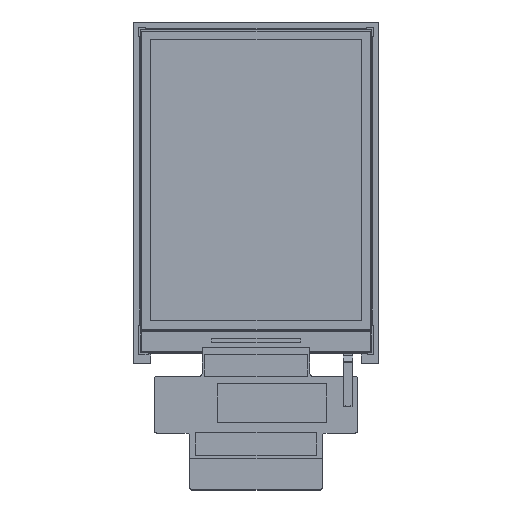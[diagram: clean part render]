
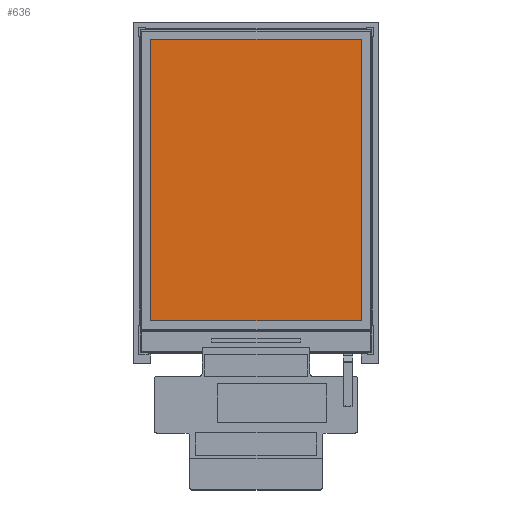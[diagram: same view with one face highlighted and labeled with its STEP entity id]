
A CAD part, top view. The second image highlights one B-rep face of the part: STEP entity #636.
In plain terms, the highlighted planar face has unit normal (0, 0, 1).
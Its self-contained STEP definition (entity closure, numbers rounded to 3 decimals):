
#207 = VECTOR ( 'NONE', #10439, 1000. ) ;
#421 = LINE ( 'NONE', #2954, #11040 ) ;
#636 = ADVANCED_FACE ( 'NONE', ( #7480 ), #10045, .T. ) ;
#649 = DIRECTION ( 'NONE',  ( 0., 0., 1. ) ) ;
#797 = EDGE_CURVE ( 'NONE', #1530, #8434, #3633, .T. ) ;
#815 = DIRECTION ( 'NONE',  ( 1., 0., 0. ) ) ;
#1384 = DIRECTION ( 'NONE',  ( 0., -1., 0. ) ) ;
#1530 = VERTEX_POINT ( 'NONE', #7946 ) ;
#2038 = ORIENTED_EDGE ( 'NONE', *, *, #4734, .T. ) ;
#2617 = CARTESIAN_POINT ( 'NONE',  ( 54.813, 98.733, -0.045 ) ) ;
#2678 = VERTEX_POINT ( 'NONE', #10154 ) ;
#2954 = CARTESIAN_POINT ( 'NONE',  ( 54.813, 147.693, -0.045 ) ) ;
#3119 = CARTESIAN_POINT ( 'NONE',  ( 91.533, 147.693, -0.045 ) ) ;
#3633 = LINE ( 'NONE', #8237, #207 ) ;
#4734 = EDGE_CURVE ( 'NONE', #2678, #1530, #5912, .T. ) ;
#5076 = CARTESIAN_POINT ( 'NONE',  ( 91.533, 147.693, -0.045 ) ) ;
#5395 = EDGE_LOOP ( 'NONE', ( #7223, #10412, #2038, #9356 ) ) ;
#5912 = LINE ( 'NONE', #2617, #8459 ) ;
#6247 = CARTESIAN_POINT ( 'NONE',  ( 54.813, 147.693, -0.045 ) ) ;
#7223 = ORIENTED_EDGE ( 'NONE', *, *, #7686, .T. ) ;
#7464 = VECTOR ( 'NONE', #7778, 1000. ) ;
#7480 = FACE_OUTER_BOUND ( 'NONE', #5395, .T. ) ;
#7686 = EDGE_CURVE ( 'NONE', #8434, #9955, #8243, .T. ) ;
#7778 = DIRECTION ( 'NONE',  ( -1., 0., 0. ) ) ;
#7946 = CARTESIAN_POINT ( 'NONE',  ( 91.533, 98.733, -0.045 ) ) ;
#8237 = CARTESIAN_POINT ( 'NONE',  ( 91.533, 98.733, -0.045 ) ) ;
#8243 = LINE ( 'NONE', #3119, #7464 ) ;
#8248 = AXIS2_PLACEMENT_3D ( 'NONE', #8324, #649, #1384 ) ;
#8324 = CARTESIAN_POINT ( 'NONE',  ( 14.861, 5.028, -0.045 ) ) ;
#8434 = VERTEX_POINT ( 'NONE', #5076 ) ;
#8459 = VECTOR ( 'NONE', #815, 1000. ) ;
#8641 = EDGE_CURVE ( 'NONE', #9955, #2678, #421, .T. ) ;
#9356 = ORIENTED_EDGE ( 'NONE', *, *, #797, .T. ) ;
#9955 = VERTEX_POINT ( 'NONE', #6247 ) ;
#10045 = PLANE ( 'NONE',  #8248 ) ;
#10154 = CARTESIAN_POINT ( 'NONE',  ( 54.813, 98.733, -0.045 ) ) ;
#10412 = ORIENTED_EDGE ( 'NONE', *, *, #8641, .T. ) ;
#10439 = DIRECTION ( 'NONE',  ( 0., 1., 0. ) ) ;
#10646 = DIRECTION ( 'NONE',  ( 0., -1., 0. ) ) ;
#11040 = VECTOR ( 'NONE', #10646, 1000. ) ;
